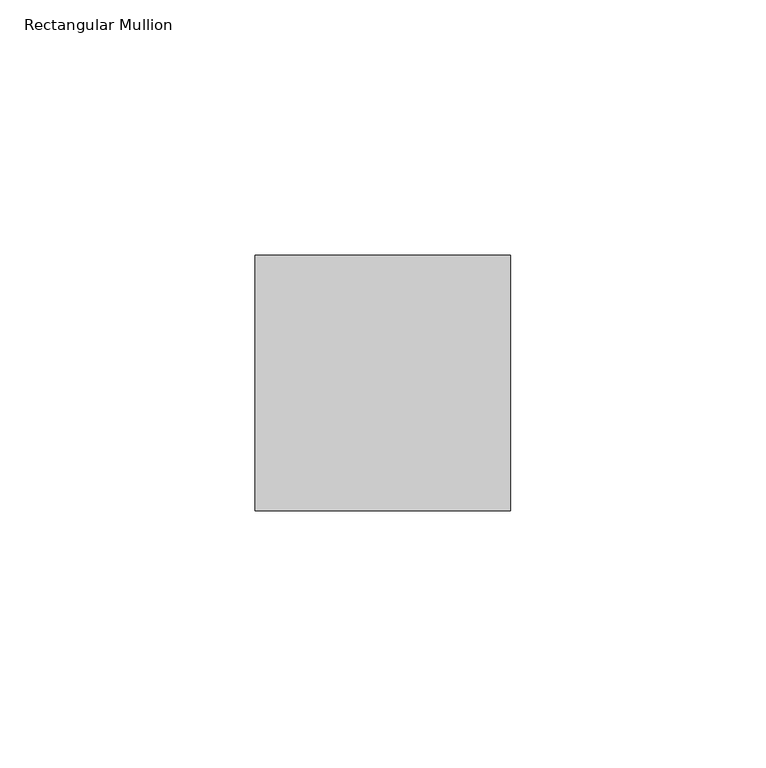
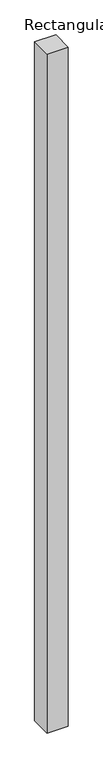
"""IFC4 building model written with IfcOpenShell, lengths in millimetres: member geometry, Rectangular Mullion : Mullion_Curtain Wall_Generic Showcase_50x50mm."""

from ifc_helpers import new_model, si_unit, frame, origin, place, context, project, spatial, polyline, outline, extrude, source, transform, mapped, element, save


def rectangular_mullion_3ef18441(model_context):
    return source(origin(), model_context, "Body", "SweptSolid", [
        extrude(outline(polyline([(0.0, 0.0), (0.0, -50.0), (-50.0, -50.0), (-50.0, 0.0), (0.0, 0.0)])), frame((0.0, 0.0, -1694.45347), z_axis=(0.0, 0.0, 1.0), x_axis=(1.0, 0.0, 0.0)), (0.0, 0.0, 1.0), 1694.45347),
    ])


if __name__ == "__main__":
    model = new_model("IFC4")
    model_context = context("Model", 3, world=origin())
    ifc_project = project(units=[si_unit("LENGTHUNIT", "METRE", prefix="MILLI")], contexts=[model_context])
    site = spatial("IfcSite", under=ifc_project)
    building = spatial("IfcBuilding", under=site)
    placement = place(None, origin())
    rectangular_mullion_shape = rectangular_mullion_3ef18441(model_context)
    element("IfcMember", 1, ObjectType="Rectangular Mullion : Mullion_Curtain Wall_Generic Showcase_50x50mm", at=placement, inside=building, context=model_context, shape_type="MappedRepresentation", body=[
        mapped(rectangular_mullion_shape, transform((0.0, 0.0, 0.0), x_axis=(1.0, 0.0, 0.0), y_axis=(0.0, 1.0, 0.0), z_axis=(0.0, 0.0, 1.0))),
    ])
    save(model, "model.ifc")
